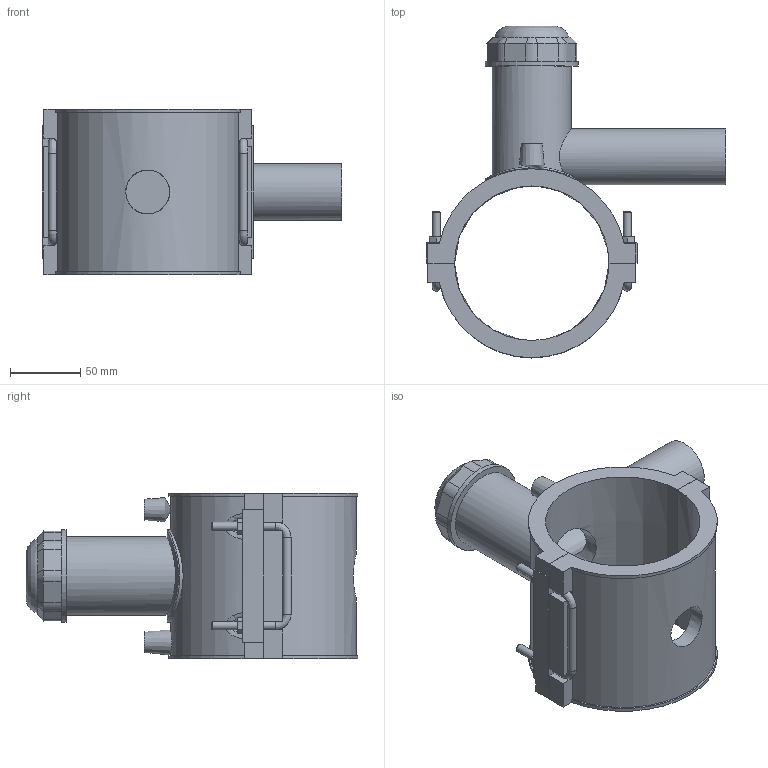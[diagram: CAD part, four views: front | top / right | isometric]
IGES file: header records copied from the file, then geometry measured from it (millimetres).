
Global section: file name: 496304110040.ipt; native system: Autodesk Inventor 2015; preprocessor: unknown; author: KIM; date: 20190124.130842; units: millimetre
Bounding box: 213 x 236.32 x 118 mm (x, y, z)
Volume: 724817.9 mm3; surface area: 179817.2 mm2
Topology: 2 solids, 2 shells, 188 faces, 491 edges, 320 vertices
Faces by surface type: plane 117, cylinder 32, revolution 20, cone 14, bspline 5
Full cylindrical faces by diameter (mm): 4 x2, 6 x10, 40 x1, 56.1 x1, 66 x1
